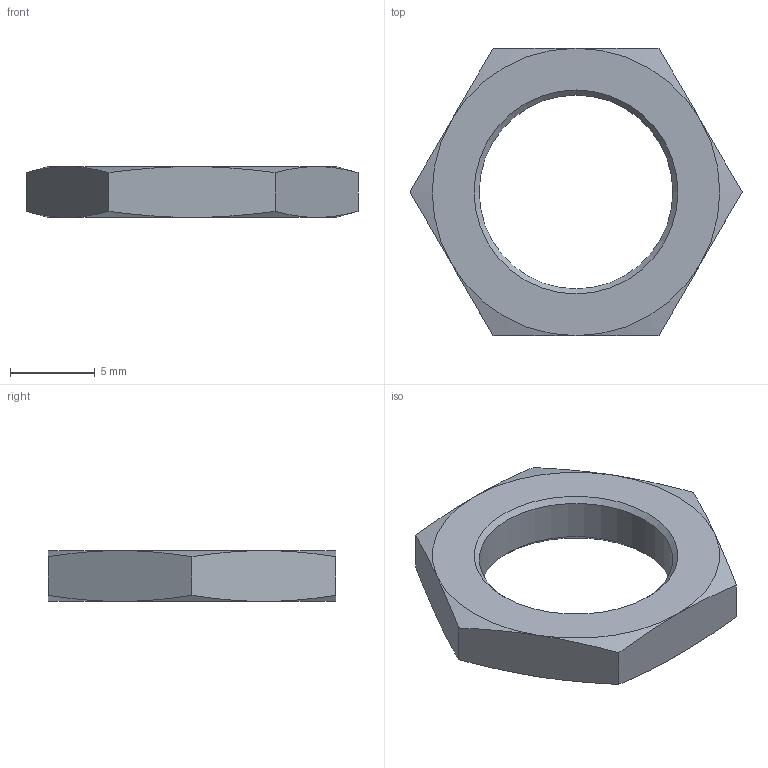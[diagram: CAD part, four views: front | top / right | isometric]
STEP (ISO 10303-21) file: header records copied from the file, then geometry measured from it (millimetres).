
FILE_DESCRIPTION( ( 'STEP AP214' ), '1' );
FILE_NAME( 'N:/Engineering/CAD_Solid/Wirbelstrom/Wirbelstromsensoren/Muttern/Mutter_M12x0,5.stp', '2011-12-15T12:05:33', ( ' ' ), ( ' ' ), 'XStep 1.0', ' ', ' ' );
FILE_SCHEMA( ( 'CONFIG_CONTROL_DESIGN) ( )' ) );
Length unit declared in the file: metre
Products named in the file (1): 1
Bounding box: 19.63 x 17 x 3 mm (x, y, z)
Volume: 433.1 mm3; surface area: 553.9 mm2
Topology: 1 solids, 1 shells, 23 faces, 49 edges, 28 vertices
Faces by surface type: cone 14, plane 8, cylinder 1
Full cylindrical faces by diameter (mm): 11.459 x1
Entity records: 828 total; most frequent: CARTESIAN_POINT 178, ORIENTED_EDGE 92, DIRECTION 86, EDGE_CURVE 46, AXIS2_PLACEMENT_3D 40, EDGE_LOOP 28, VERTEX_POINT 28, FACE_OUTER_BOUND 24
